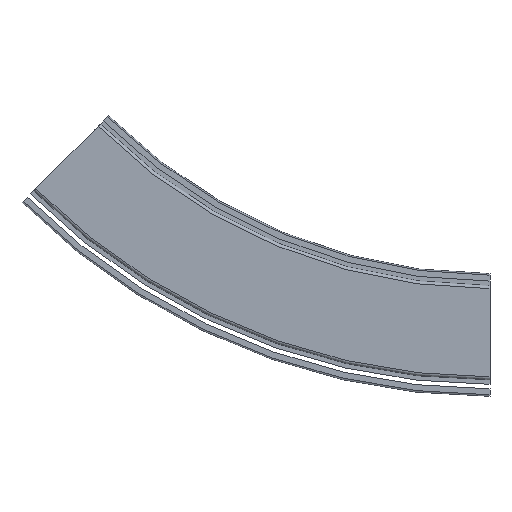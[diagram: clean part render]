
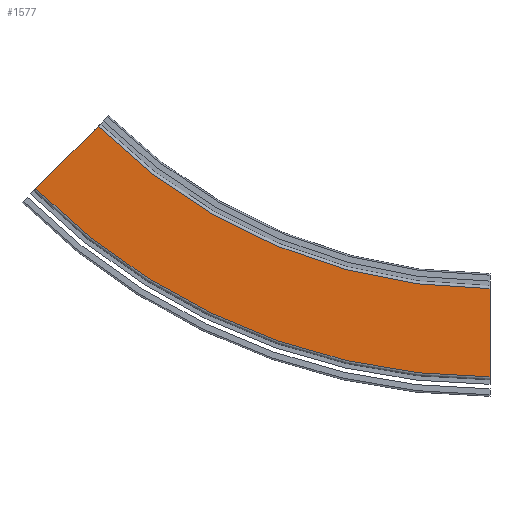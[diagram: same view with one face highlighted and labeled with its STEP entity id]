
A CAD part, left-side view. The second image highlights one B-rep face of the part: STEP entity #1577.
In plain terms, the highlighted planar face has unit normal (-1, 0, 0).
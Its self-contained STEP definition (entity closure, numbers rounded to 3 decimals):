
#126=PLANE('',#1712);
#200=FACE_OUTER_BOUND('',#292,.T.);
#292=EDGE_LOOP('',(#1300,#1301,#1302,#1303));
#360=CIRCLE('',#1711,370.5);
#361=CIRCLE('',#1713,429.5);
#464=LINE('',#7158,#590);
#465=LINE('',#7160,#591);
#590=VECTOR('',#2010,10.);
#591=VECTOR('',#2011,10.);
#750=VERTEX_POINT('',#7151);
#751=VERTEX_POINT('',#7153);
#752=VERTEX_POINT('',#7157);
#753=VERTEX_POINT('',#7159);
#950=EDGE_CURVE('',#750,#751,#360,.T.);
#951=EDGE_CURVE('',#752,#750,#464,.T.);
#952=EDGE_CURVE('',#753,#751,#465,.T.);
#953=EDGE_CURVE('',#752,#753,#361,.T.);
#1300=ORIENTED_EDGE('',*,*,#951,.T.);
#1301=ORIENTED_EDGE('',*,*,#950,.T.);
#1302=ORIENTED_EDGE('',*,*,#952,.F.);
#1303=ORIENTED_EDGE('',*,*,#953,.F.);
#1577=ADVANCED_FACE('',(#200),#126,.T.);
#1711=AXIS2_PLACEMENT_3D('',#7155,#2006,#2007);
#1712=AXIS2_PLACEMENT_3D('',#7156,#2008,#2009);
#1713=AXIS2_PLACEMENT_3D('',#7161,#2012,#2013);
#2006=DIRECTION('center_axis',(1.,0.,0.));
#2007=DIRECTION('ref_axis',(0.,0.,-1.));
#2008=DIRECTION('center_axis',(-1.,0.,0.));
#2009=DIRECTION('ref_axis',(0.,0.,1.));
#2010=DIRECTION('',(0.,0.,1.));
#2011=DIRECTION('',(0.,-0.707,0.707));
#2012=DIRECTION('center_axis',(1.,0.,0.));
#2013=DIRECTION('ref_axis',(0.,0.,-1.));
#7151=CARTESIAN_POINT('',(-43.,0.,29.5));
#7153=CARTESIAN_POINT('',(-43.,261.983,138.017));
#7155=CARTESIAN_POINT('Origin',(-43.,0.,400.));
#7156=CARTESIAN_POINT('Origin',(-43.,0.,-29.5));
#7157=CARTESIAN_POINT('',(-43.,0.,-29.5));
#7158=CARTESIAN_POINT('',(-43.,0.,-29.5));
#7159=CARTESIAN_POINT('',(-43.,303.702,96.298));
#7160=CARTESIAN_POINT('',(-43.,303.702,96.298));
#7161=CARTESIAN_POINT('Origin',(-43.,0.,400.));
